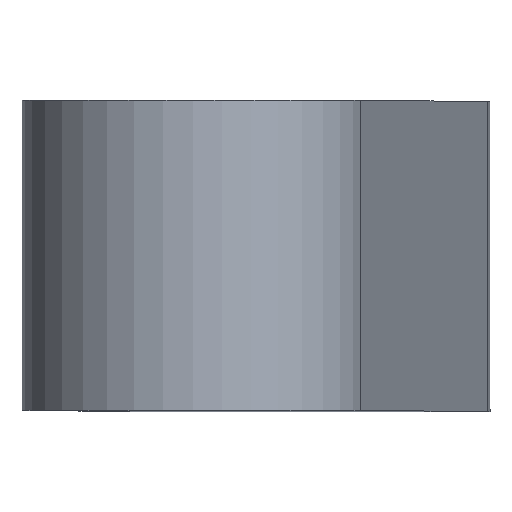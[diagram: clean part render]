
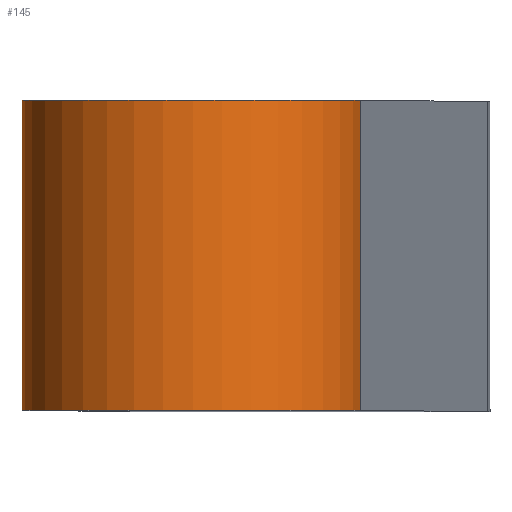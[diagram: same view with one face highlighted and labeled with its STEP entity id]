
A CAD part, top view. The second image highlights one B-rep face of the part: STEP entity #145.
In plain terms, the highlighted cylindrical face has radius 5.5 mm (diameter 11 mm), a partial arc.
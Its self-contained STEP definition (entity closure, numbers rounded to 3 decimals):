
#17=CYLINDRICAL_SURFACE('',#173,5.5);
#27=FACE_OUTER_BOUND('',#37,.T.);
#37=EDGE_LOOP('',(#119,#120,#121,#122));
#49=LINE('',#250,#59);
#50=LINE('',#254,#60);
#59=VECTOR('',#207,10.);
#60=VECTOR('',#212,10.);
#64=CIRCLE('',#165,5.5);
#69=CIRCLE('',#174,5.5);
#73=VERTEX_POINT('',#228);
#74=VERTEX_POINT('',#230);
#80=VERTEX_POINT('',#248);
#81=VERTEX_POINT('',#252);
#85=EDGE_CURVE('',#73,#74,#64,.T.);
#95=EDGE_CURVE('',#73,#80,#49,.T.);
#96=EDGE_CURVE('',#81,#80,#69,.T.);
#97=EDGE_CURVE('',#74,#81,#50,.T.);
#119=ORIENTED_EDGE('',*,*,#95,.T.);
#120=ORIENTED_EDGE('',*,*,#96,.F.);
#121=ORIENTED_EDGE('',*,*,#97,.F.);
#122=ORIENTED_EDGE('',*,*,#85,.F.);
#145=ADVANCED_FACE('',(#27),#17,.T.);
#165=AXIS2_PLACEMENT_3D('',#231,#186,#187);
#173=AXIS2_PLACEMENT_3D('',#251,#208,#209);
#174=AXIS2_PLACEMENT_3D('',#253,#210,#211);
#186=DIRECTION('center_axis',(0.,1.,0.));
#187=DIRECTION('ref_axis',(0.985,0.,0.174));
#207=DIRECTION('',(0.,-1.,0.));
#208=DIRECTION('center_axis',(0.,-1.,0.));
#209=DIRECTION('ref_axis',(0.985,0.,0.174));
#210=DIRECTION('center_axis',(0.,-1.,0.));
#211=DIRECTION('ref_axis',(0.985,0.,0.174));
#212=DIRECTION('',(0.,-1.,0.));
#228=CARTESIAN_POINT('',(-38.301,-345.5,73.326));
#230=CARTESIAN_POINT('',(-27.468,-345.5,75.236));
#231=CARTESIAN_POINT('Origin',(-32.885,-345.5,74.281));
#248=CARTESIAN_POINT('',(-38.301,-355.5,73.326));
#250=CARTESIAN_POINT('',(-38.301,-350.5,73.326));
#251=CARTESIAN_POINT('Origin',(-32.885,-350.5,74.281));
#252=CARTESIAN_POINT('',(-27.468,-355.5,75.236));
#253=CARTESIAN_POINT('Origin',(-32.885,-355.5,74.281));
#254=CARTESIAN_POINT('',(-27.468,-350.5,75.236));
